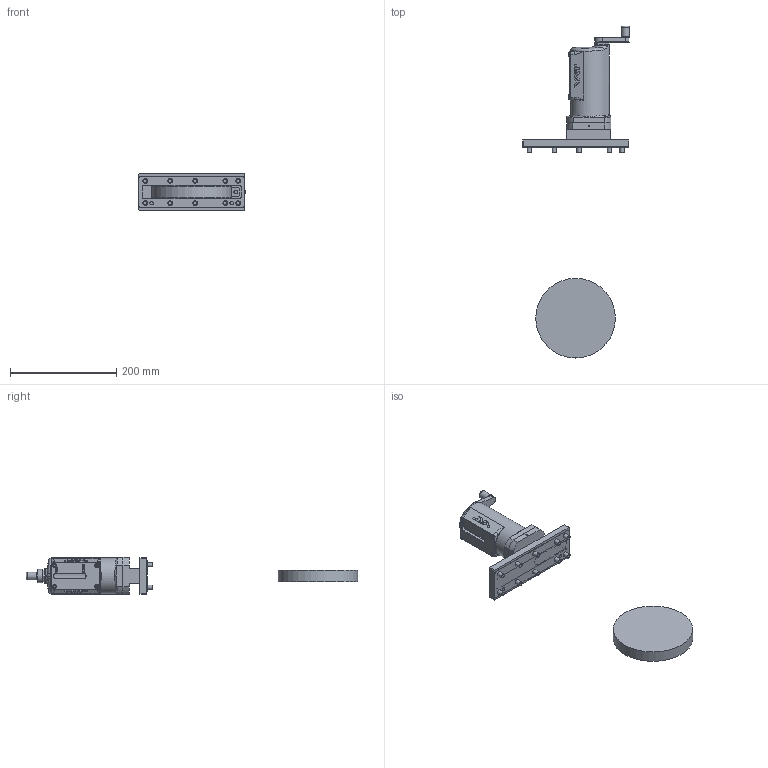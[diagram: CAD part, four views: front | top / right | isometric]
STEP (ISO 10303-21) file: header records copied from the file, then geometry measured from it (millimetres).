
FILE_DESCRIPTION(/* description */ (''),/* implementation_level */ '2;1');
FILE_NAME(/* name */ '1007132950_203.stp',/* time_stamp */ '2016-09-20T10:17:57+02:00',/* author */ (''),/* organization */ (''),/* preprocessor_version */ 'ST-DEVELOPER v15',/* originating_system */ 'SIEMENS PLM Software NX 9.0',/* authorisation */ '');
FILE_SCHEMA (('AP203_CONFIGURATION_CONTROLLED_3D_DESIGN_OF_MECHANICAL_PARTS_AND_ASSEMBLIES_MIM_LF { 1 0 10303 403 2 1 2}'));
Length unit declared in the file: millimetre
Products named in the file (14): n-6024-538.1; 395868; 72872-01.1_22667ID; 69129.1; 82480-R1_1.2; 78964-01_01.1; 79149-01.1; 79148-01.1; 218198.1; 93160-01.1; 487420; 82469-R1.1_MODEL; 82482-R1.2; 231228.3
Assembly tree (25 placements, depth 3):
  231228.3
    93160-01.1
    82482-R1.2
      79148-01.1
      79149-01.1
      78964-01_01.1
      82480-R1_1.2
    82469-R1.1_MODEL
      69129.1
      72872-01.1_22667ID
    218198.1  x10
    487420
      395868
      n-6024-538.1  x4
Bounding box: 201.57 x 625.62 x 70 mm (x, y, z)
Volume: 899469 mm3; surface area: 232114.6 mm2
Topology: 43 solids, 43 shells, 586 faces, 1416 edges, 948 vertices
Faces by surface type: plane 335, cylinder 177, cone 45, bspline 22, sphere 4, torus 3
Full cylindrical faces by diameter (mm): 3 x1, 4 x8, 4.3 x4, 4.625 x2, 6.625 x2, 6.66 x10, 6.7 x10, 6.8 x5, 7 x1, 8 x24, 9 x10, 13 x10, 14.1 x10, 15 x1, 20 x1, 28 x1, 59.975 x1, 60 x1, 150.1 x1
Entity records: 14902 total; most frequent: CARTESIAN_POINT 3681, ORIENTED_EDGE 1708, DIRECTION 1700, EDGE_CURVE 854, AXIS2_PLACEMENT_3D 653, VERTEX_POINT 638, EDGE_LOOP 509, LINE 394
